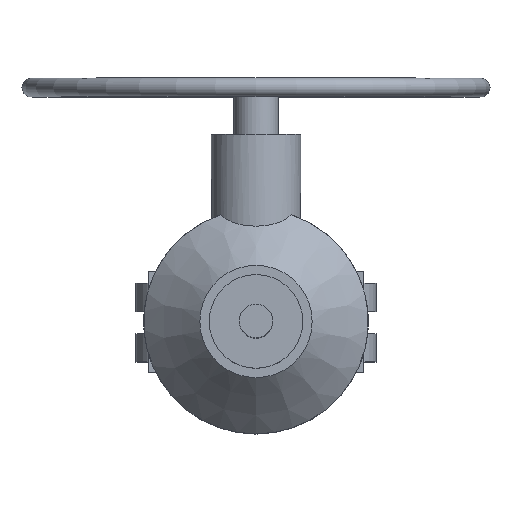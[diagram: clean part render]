
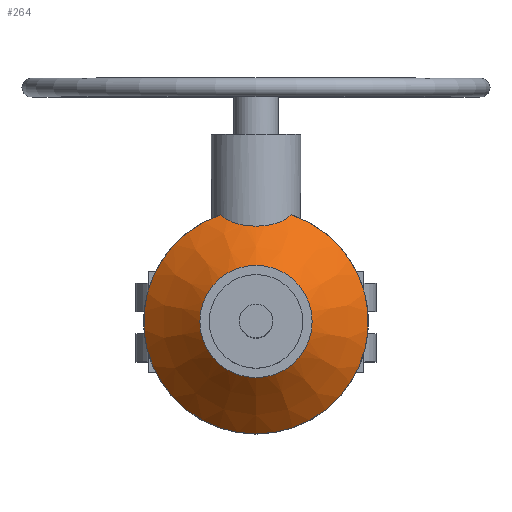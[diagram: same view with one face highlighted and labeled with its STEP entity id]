
A CAD part, top view. The second image highlights one B-rep face of the part: STEP entity #264.
In plain terms, the highlighted conical face has half-angle 45 degrees and reference radius 45 mm.
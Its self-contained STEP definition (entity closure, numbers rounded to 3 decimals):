
#264=ADVANCED_FACE('',(#1300,#1302),#1304,.T.);
#1300=FACE_BOUND('',#1301,.T.);
#1301=EDGE_LOOP('',(#2153,#2154,#2155,#2156));
#1302=FACE_OUTER_BOUND('',#1303,.T.);
#1303=EDGE_LOOP('',(#2157));
#1304=CONICAL_SURFACE('',#1305,45.,0.785);
#1305=AXIS2_PLACEMENT_3D('',#1306,#1307,#1308);
#1306=CARTESIAN_POINT('',(0.,0.,335.));
#1307=DIRECTION('',(0.,0.,-1.));
#1308=DIRECTION('',(0.,-1.,0.));
#2153=ORIENTED_EDGE('',*,*,#2664,.F.);
#2154=ORIENTED_EDGE('',*,*,#2665,.F.);
#2155=ORIENTED_EDGE('',*,*,#2666,.F.);
#2156=ORIENTED_EDGE('',*,*,#2667,.F.);
#2157=ORIENTED_EDGE('',*,*,#2649,.T.);
#2649=EDGE_CURVE('',#2965,#2965,#2966,.T.);
#2664=EDGE_CURVE('',#2991,#2992,#2993,.F.);
#2665=EDGE_CURVE('',#2994,#2991,#2995,.F.);
#2666=EDGE_CURVE('',#2996,#2994,#2997,.T.);
#2667=EDGE_CURVE('',#2992,#2996,#2998,.T.);
#2965=VERTEX_POINT('',#3544);
#2966=CIRCLE('',#3545,30.);
#2991=VERTEX_POINT('',#3603);
#2992=VERTEX_POINT('',#3604);
#2993=B_SPLINE_CURVE_WITH_KNOTS('',3,
(#3605,#3606,#3607,#3608,#3609,#3610,#3611,#3612,#3613,#3614,#3615,#3616,#3617,#3618,
#3619,#3620,#3621,#3622,#3623,#3624,#3625,#3626,#3627,#3628,#3629,#3630,#3631,#3632,
#3633,#3634,#3635,#3636,#3637,#3638,#3639,#3640,#3641,#3642,#3643,#3644,#3645,#3646,
#3647,#3648),
.UNSPECIFIED.,.F.,.F.,
(4,1,1,1,1,1,1,1,1,1,1,1,1,1,1,1,1,1,1,1,1,1,1,1,1,1,1,1,1,1,1,1,1,1,1,1,1,1,1,1,
1,4),
(0.,0.02,0.041,0.061,0.082,
0.102,0.122,0.143,0.163,0.183,
0.204,0.224,0.245,0.266,0.287,
0.308,0.329,0.351,0.375,0.401,
0.441,0.481,0.521,0.551,0.581,
0.621,0.661,0.701,0.735,0.766,
0.794,0.814,0.834,0.853,0.873,
0.892,0.91,0.929,0.947,0.965,
0.982,1.),
.UNSPECIFIED.);
#2994=VERTEX_POINT('',#3649);
#2995=B_SPLINE_CURVE_WITH_KNOTS('',3,
(#3650,#3651,#3652,#3653,#3654,#3655,#3656,#3657,#3658,#3659,#3660,#3661,#3662,#3663,
#3664,#3665,#3666,#3667,#3668,#3669,#3670,#3671,#3672,#3673,#3674,#3675,#3676,#3677,
#3678,#3679,#3680,#3681,#3682,#3683,#3684,#3685,#3686,#3687,#3688,#3689,#3690,#3691,
#3692),
.UNSPECIFIED.,.F.,.F.,
(4,1,1,1,1,1,1,1,1,1,1,1,1,1,1,1,1,1,1,1,1,1,1,1,1,1,1,1,1,1,1,1,1,1,1,1,1,1,1,1,
4),
(0.,0.024,0.047,0.071,0.095,
0.118,0.145,0.173,0.216,0.258,
0.3,0.337,0.371,0.403,0.43,
0.459,0.501,0.543,0.584,0.62,
0.652,0.681,0.703,0.724,0.744,
0.764,0.783,0.802,0.82,0.838,
0.855,0.871,0.887,0.903,0.918,
0.932,0.946,0.96,0.974,0.987,
1.),
.UNSPECIFIED.);
#2996=VERTEX_POINT('',#3693);
#2997=CIRCLE('',#3694,60.);
#2998=CIRCLE('',#3698,60.);
#3544=CARTESIAN_POINT('',(0.,-30.,350.));
#3545=AXIS2_PLACEMENT_3D('',#3546,#3547,#3548);
#3546=CARTESIAN_POINT('',(0.,0.,350.));
#3547=DIRECTION('',(0.,0.,-1.));
#3548=DIRECTION('',(0.,-1.,0.));
#3603=CARTESIAN_POINT('',(0.,51.,329.));
#3604=CARTESIAN_POINT('',(18.735,57.,320.));
#3605=CARTESIAN_POINT('',(18.735,57.,320.));
#3606=CARTESIAN_POINT('',(18.653,56.919,320.102));
#3607=CARTESIAN_POINT('',(18.487,56.759,320.306));
#3608=CARTESIAN_POINT('',(18.232,56.523,320.61));
#3609=CARTESIAN_POINT('',(17.97,56.291,320.91));
#3610=CARTESIAN_POINT('',(17.702,56.064,321.208));
#3611=CARTESIAN_POINT('',(17.428,55.841,321.502));
#3612=CARTESIAN_POINT('',(17.147,55.623,321.794));
#3613=CARTESIAN_POINT('',(16.859,55.409,322.083));
#3614=CARTESIAN_POINT('',(16.564,55.199,322.369));
#3615=CARTESIAN_POINT('',(16.262,54.994,322.652));
#3616=CARTESIAN_POINT('',(15.953,54.793,322.932));
#3617=CARTESIAN_POINT('',(15.636,54.596,323.21));
#3618=CARTESIAN_POINT('',(15.31,54.403,323.484));
#3619=CARTESIAN_POINT('',(14.976,54.214,323.756));
#3620=CARTESIAN_POINT('',(14.633,54.029,324.025));
#3621=CARTESIAN_POINT('',(14.281,53.848,324.291));
#3622=CARTESIAN_POINT('',(13.919,53.672,324.553));
#3623=CARTESIAN_POINT('',(13.534,53.493,324.822));
#3624=CARTESIAN_POINT('',(13.109,53.306,325.106));
#3625=CARTESIAN_POINT('',(12.567,53.083,325.451));
#3626=CARTESIAN_POINT('',(11.915,52.835,325.84));
#3627=CARTESIAN_POINT('',(11.159,52.577,326.254));
#3628=CARTESIAN_POINT('',(10.444,52.357,326.613));
#3629=CARTESIAN_POINT('',(9.777,52.171,326.922));
#3630=CARTESIAN_POINT('',(9.098,51.998,327.213));
#3631=CARTESIAN_POINT('',(8.34,51.825,327.51));
#3632=CARTESIAN_POINT('',(7.502,51.657,327.803));
#3633=CARTESIAN_POINT('',(6.695,51.517,328.052));
#3634=CARTESIAN_POINT('',(5.942,51.403,328.257));
#3635=CARTESIAN_POINT('',(5.267,51.314,328.418));
#3636=CARTESIAN_POINT('',(4.687,51.247,328.54));
#3637=CARTESIAN_POINT('',(4.184,51.196,328.634));
#3638=CARTESIAN_POINT('',(3.741,51.156,328.708));
#3639=CARTESIAN_POINT('',(3.304,51.121,328.773));
#3640=CARTESIAN_POINT('',(2.873,51.091,328.829));
#3641=CARTESIAN_POINT('',(2.447,51.066,328.876));
#3642=CARTESIAN_POINT('',(2.028,51.045,328.915));
#3643=CARTESIAN_POINT('',(1.614,51.028,328.947));
#3644=CARTESIAN_POINT('',(1.206,51.015,328.971));
#3645=CARTESIAN_POINT('',(0.8,51.006,328.988));
#3646=CARTESIAN_POINT('',(0.399,51.001,328.998));
#3647=CARTESIAN_POINT('',(0.133,51.,329.));
#3648=CARTESIAN_POINT('',(0.,51.,329.));
#3649=CARTESIAN_POINT('',(-18.735,57.,320.));
#3650=CARTESIAN_POINT('',(0.,51.,329.));
#3651=CARTESIAN_POINT('',(-0.179,51.,329.));
#3652=CARTESIAN_POINT('',(-0.536,51.002,328.996));
#3653=CARTESIAN_POINT('',(-1.071,51.012,328.978));
#3654=CARTESIAN_POINT('',(-1.604,51.027,328.948));
#3655=CARTESIAN_POINT('',(-2.137,51.05,328.907));
#3656=CARTESIAN_POINT('',(-2.688,51.079,328.851));
#3657=CARTESIAN_POINT('',(-3.277,51.118,328.778));
#3658=CARTESIAN_POINT('',(-4.,51.177,328.669));
#3659=CARTESIAN_POINT('',(-4.836,51.261,328.514));
#3660=CARTESIAN_POINT('',(-5.759,51.376,328.305));
#3661=CARTESIAN_POINT('',(-6.634,51.506,328.071));
#3662=CARTESIAN_POINT('',(-7.442,51.647,327.822));
#3663=CARTESIAN_POINT('',(-8.165,51.789,327.572));
#3664=CARTESIAN_POINT('',(-8.806,51.93,327.329));
#3665=CARTESIAN_POINT('',(-9.401,52.074,327.085));
#3666=CARTESIAN_POINT('',(-10.056,52.246,326.797));
#3667=CARTESIAN_POINT('',(-10.798,52.462,326.44));
#3668=CARTESIAN_POINT('',(-11.601,52.724,326.016));
#3669=CARTESIAN_POINT('',(-12.342,52.994,325.589));
#3670=CARTESIAN_POINT('',(-13.005,53.261,325.175));
#3671=CARTESIAN_POINT('',(-13.579,53.512,324.793));
#3672=CARTESIAN_POINT('',(-14.055,53.737,324.456));
#3673=CARTESIAN_POINT('',(-14.457,53.938,324.159));
#3674=CARTESIAN_POINT('',(-14.801,54.119,323.894));
#3675=CARTESIAN_POINT('',(-15.133,54.302,323.63));
#3676=CARTESIAN_POINT('',(-15.451,54.485,323.367));
#3677=CARTESIAN_POINT('',(-15.755,54.669,323.106));
#3678=CARTESIAN_POINT('',(-16.044,54.851,322.851));
#3679=CARTESIAN_POINT('',(-16.318,55.032,322.6));
#3680=CARTESIAN_POINT('',(-16.577,55.209,322.356));
#3681=CARTESIAN_POINT('',(-16.823,55.384,322.118));
#3682=CARTESIAN_POINT('',(-17.055,55.554,321.887));
#3683=CARTESIAN_POINT('',(-17.276,55.723,321.661));
#3684=CARTESIAN_POINT('',(-17.486,55.888,321.44));
#3685=CARTESIAN_POINT('',(-17.688,56.053,321.223));
#3686=CARTESIAN_POINT('',(-17.88,56.214,321.011));
#3687=CARTESIAN_POINT('',(-18.064,56.374,320.803));
#3688=CARTESIAN_POINT('',(-18.24,56.532,320.599));
#3689=CARTESIAN_POINT('',(-18.411,56.688,320.397));
#3690=CARTESIAN_POINT('',(-18.575,56.844,320.198));
#3691=CARTESIAN_POINT('',(-18.682,56.948,320.066));
#3692=CARTESIAN_POINT('',(-18.735,57.,320.));
#3693=CARTESIAN_POINT('',(0.,-60.,320.));
#3694=AXIS2_PLACEMENT_3D('',#3695,#3696,#3697);
#3695=CARTESIAN_POINT('',(0.,0.,320.));
#3696=DIRECTION('',(0.,0.,-1.));
#3697=DIRECTION('',(0.,-1.,0.));
#3698=AXIS2_PLACEMENT_3D('',#3699,#3700,#3701);
#3699=CARTESIAN_POINT('',(0.,0.,320.));
#3700=DIRECTION('',(0.,0.,-1.));
#3701=DIRECTION('',(0.312,0.95,0.));
